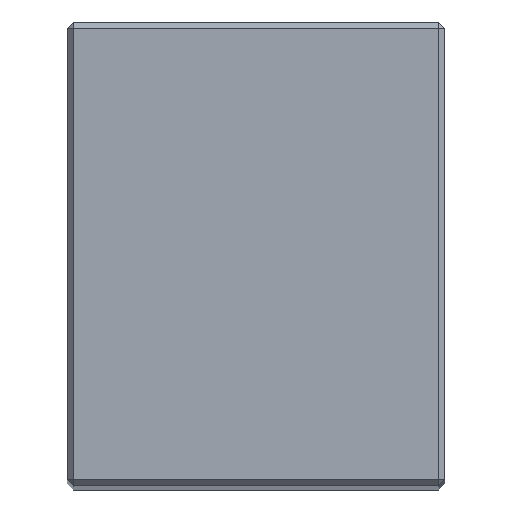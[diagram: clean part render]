
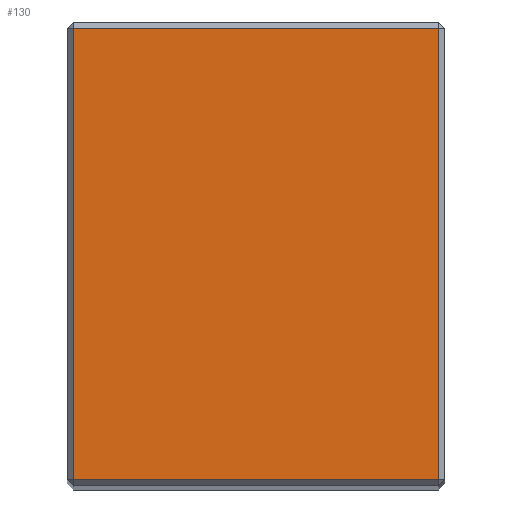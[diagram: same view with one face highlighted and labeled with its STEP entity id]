
A CAD part, top view. The second image highlights one B-rep face of the part: STEP entity #130.
In plain terms, the highlighted planar face has unit normal (0, 0, 1).
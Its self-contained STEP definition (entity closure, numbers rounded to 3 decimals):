
#4 = CARTESIAN_POINT ( 'NONE',  ( -30., 76., 223. ) ) ;
#11 = LINE ( 'NONE', #85, #521 ) ;
#14 = VERTEX_POINT ( 'NONE', #116 ) ;
#16 = VERTEX_POINT ( 'NONE', #496 ) ;
#39 = ORIENTED_EDGE ( 'NONE', *, *, #528, .T. ) ;
#85 = CARTESIAN_POINT ( 'NONE',  ( 31., 1., 223. ) ) ;
#88 = CARTESIAN_POINT ( 'NONE',  ( 31., 76., 223. ) ) ;
#96 = ORIENTED_EDGE ( 'NONE', *, *, #501, .T. ) ;
#116 = CARTESIAN_POINT ( 'NONE',  ( -30., 75., 223. ) ) ;
#117 = EDGE_CURVE ( 'NONE', #135, #16, #352, .T. ) ;
#130 = ADVANCED_FACE ( 'NONE', ( #549 ), #271, .F. ) ;
#135 = VERTEX_POINT ( 'NONE', #277 ) ;
#271 = PLANE ( 'NONE',  #282 ) ;
#277 = CARTESIAN_POINT ( 'NONE',  ( 30., 1., 223. ) ) ;
#282 = AXIS2_PLACEMENT_3D ( 'NONE', #88, #492, #377 ) ;
#299 = VECTOR ( 'NONE', #621, 1000. ) ;
#315 = LINE ( 'NONE', #604, #355 ) ;
#337 = DIRECTION ( 'NONE',  ( -1., 0., 0. ) ) ;
#352 = LINE ( 'NONE', #525, #299 ) ;
#355 = VECTOR ( 'NONE', #337, 1000. ) ;
#377 = DIRECTION ( 'NONE',  ( -1., 0., 0. ) ) ;
#393 = ORIENTED_EDGE ( 'NONE', *, *, #117, .T. ) ;
#444 = VERTEX_POINT ( 'NONE', #494 ) ;
#486 = DIRECTION ( 'NONE',  ( 0., -1., 0. ) ) ;
#492 = DIRECTION ( 'NONE',  ( 0., 0., -1. ) ) ;
#494 = CARTESIAN_POINT ( 'NONE',  ( -30., 1., 223. ) ) ;
#496 = CARTESIAN_POINT ( 'NONE',  ( 30., 75., 223. ) ) ;
#501 = EDGE_CURVE ( 'NONE', #14, #444, #505, .T. ) ;
#505 = LINE ( 'NONE', #4, #507 ) ;
#507 = VECTOR ( 'NONE', #486, 1000. ) ;
#521 = VECTOR ( 'NONE', #636, 1000. ) ;
#525 = CARTESIAN_POINT ( 'NONE',  ( 30., 76., 223. ) ) ;
#528 = EDGE_CURVE ( 'NONE', #16, #14, #315, .T. ) ;
#549 = FACE_OUTER_BOUND ( 'NONE', #645, .T. ) ;
#600 = ORIENTED_EDGE ( 'NONE', *, *, #631, .T. ) ;
#604 = CARTESIAN_POINT ( 'NONE',  ( -31., 75., 223. ) ) ;
#621 = DIRECTION ( 'NONE',  ( 0., 1., 0. ) ) ;
#631 = EDGE_CURVE ( 'NONE', #444, #135, #11, .T. ) ;
#636 = DIRECTION ( 'NONE',  ( 1., 0., 0. ) ) ;
#645 = EDGE_LOOP ( 'NONE', ( #39, #96, #600, #393 ) ) ;
